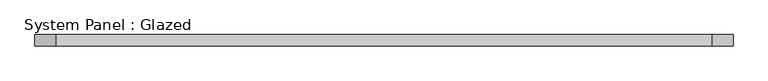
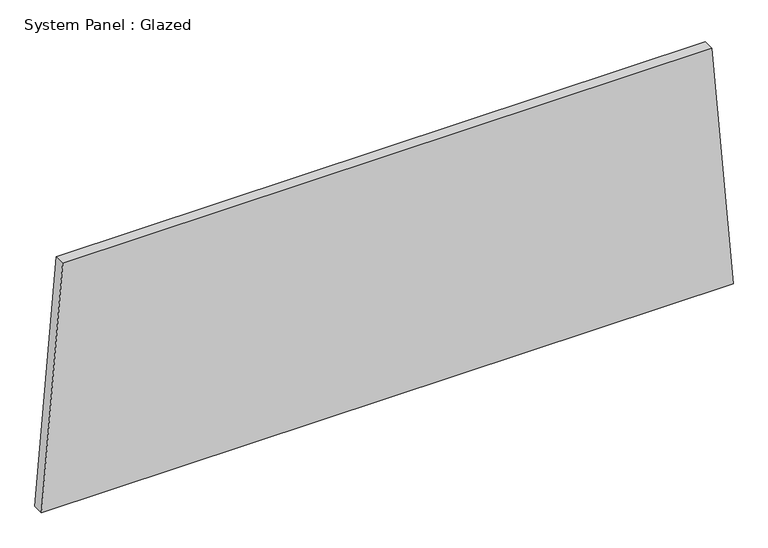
"""IFC4 building model written with IfcOpenShell, lengths in millimetres: plate geometry, System Panel : Glazed."""

from ifc_helpers import new_model, si_unit, frame, origin, place, context, project, spatial, polyline, outline, extrude, source, transform, mapped, element, save


def system_panel_glazed_a11d2942(model_context):
    return source(origin(), model_context, "Body", "SweptSolid", [
        extrude(outline(polyline([(0.0, -786.1639694), (0.0, 786.1639694), (582.1199553, 737.9519894), (582.1199553, -737.9519894), (0.0, -786.1639694)])), frame((0.0, 19.05, 0.0), z_axis=(0.0, 1.0, 0.0), x_axis=(0.0, 0.0, 1.0)), (0.0, 0.0, 1.0), 25.4),
    ])


if __name__ == "__main__":
    model = new_model("IFC4")
    model_context = context("Model", 3, world=origin())
    ifc_project = project(units=[si_unit("LENGTHUNIT", "METRE", prefix="MILLI")], contexts=[model_context])
    site = spatial("IfcSite", under=ifc_project)
    building = spatial("IfcBuilding", under=site)
    placement = place(None, origin())
    system_panel_glazed_shape = system_panel_glazed_a11d2942(model_context)
    element("IfcPlate", 1, ObjectType="System Panel : Glazed", at=placement, inside=building, context=model_context, shape_type="MappedRepresentation", body=[
        mapped(system_panel_glazed_shape, transform((0.0, 0.0, 0.0), x_axis=(1.0, 0.0, 0.0), y_axis=(0.0, 1.0, 0.0), z_axis=(0.0, 0.0, 1.0))),
    ])
    save(model, "model.ifc")
